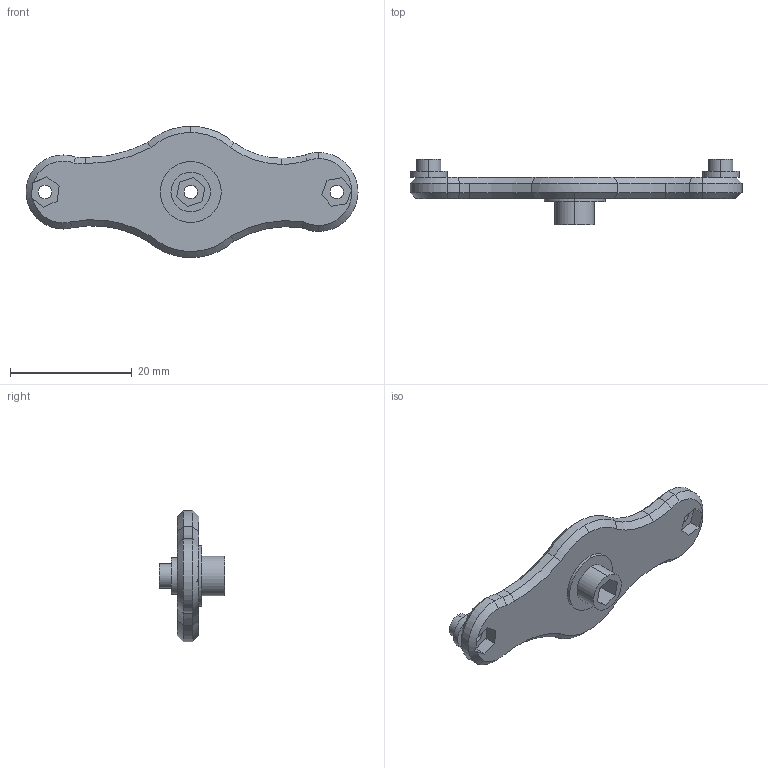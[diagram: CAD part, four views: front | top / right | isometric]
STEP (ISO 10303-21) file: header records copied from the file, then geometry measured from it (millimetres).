
FILE_DESCRIPTION(('Open CASCADE Model'),'2;1');
FILE_NAME('center-encoder-rotor.step','2026-11-14T14:31:50',('Author'),( 'Open CASCADE'),'Open CASCADE STEP processor 8.0','Open CASCADE 8.0' ,'Unknown');
FILE_SCHEMA(('AP242_MANAGED_MODEL_BASED_3D_ENGINEERING_MIM_LF {1 0 10303 442 1 1 4 }' ));
Length unit declared in the file: millimetre
Products named in the file (1): Center Encoder Rotor
Bounding box: 54.57 x 10.8 x 21.57 mm (x, y, z)
Volume: 2607.7 mm3; surface area: 2217.9 mm2
Topology: 1 solids, 1 shells, 100 faces, 239 edges, 149 vertices
Faces by surface type: cylinder 37, plane 33, cone 30
Entity records: 6957 total; most frequent: CARTESIAN_POINT 2115, DIRECTION 939, ORIENTED_EDGE 478, PCURVE 478, DEFINITIONAL_REPRESENTATION 478, LINE 461, VECTOR 461, EDGE_CURVE 239
